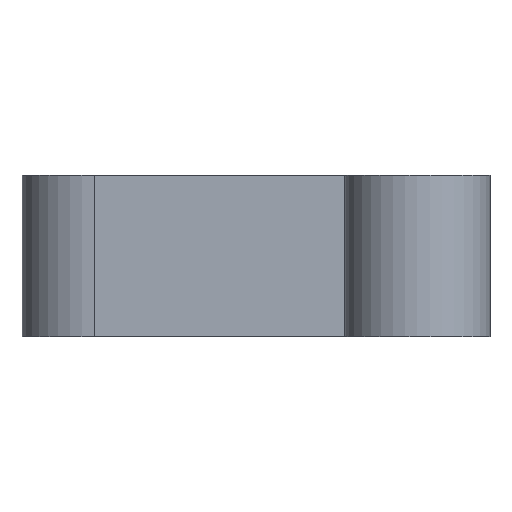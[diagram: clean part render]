
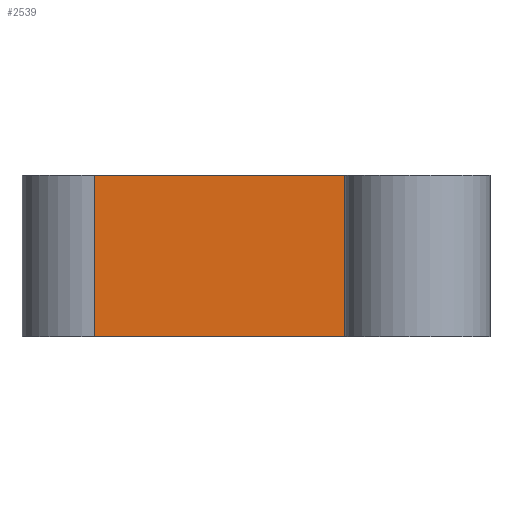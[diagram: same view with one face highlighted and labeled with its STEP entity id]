
A CAD part, left-side view. The second image highlights one B-rep face of the part: STEP entity #2539.
In plain terms, the highlighted planar face has unit normal (-1, 0, 0).
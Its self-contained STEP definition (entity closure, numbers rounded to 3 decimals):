
#67=PLANE('',#2882);
#116=LINE('',#3953,#275);
#126=LINE('',#4025,#285);
#210=LINE('',#4398,#369);
#223=LINE('',#4456,#382);
#275=VECTOR('',#3116,1000.);
#285=VECTOR('',#3180,1000.);
#369=VECTOR('',#3614,1000.);
#382=VECTOR('',#3685,1000.);
#1024=ORIENTED_EDGE('',*,*,#1395,.F.);
#1025=ORIENTED_EDGE('',*,*,#1222,.F.);
#1026=ORIENTED_EDGE('',*,*,#1186,.T.);
#1027=ORIENTED_EDGE('',*,*,#1421,.T.);
#1186=EDGE_CURVE('',#1514,#1513,#116,.T.);
#1222=EDGE_CURVE('',#1514,#1549,#126,.T.);
#1395=EDGE_CURVE('',#1549,#1663,#210,.T.);
#1421=EDGE_CURVE('',#1513,#1663,#223,.T.);
#1513=VERTEX_POINT('',#3952);
#1514=VERTEX_POINT('',#3954);
#1549=VERTEX_POINT('',#4026);
#1663=VERTEX_POINT('',#4399);
#2068=EDGE_LOOP('',(#1024,#1025,#1026,#1027));
#2281=FACE_BOUND('',#2068,.T.);
#2539=ADVANCED_FACE('',(#2281),#67,.T.);
#2882=AXIS2_PLACEMENT_3D('',#4455,#3683,#3684);
#3116=DIRECTION('',(0.,1.,0.));
#3180=DIRECTION('',(0.,0.,-1.));
#3614=DIRECTION('',(0.,1.,0.));
#3683=DIRECTION('',(-1.,0.,0.));
#3684=DIRECTION('',(0.,0.,1.));
#3685=DIRECTION('',(0.,0.,-1.));
#3952=CARTESIAN_POINT('',(12.4,16.,8.));
#3953=CARTESIAN_POINT('',(12.4,3.6,8.));
#3954=CARTESIAN_POINT('',(12.4,3.6,8.));
#4025=CARTESIAN_POINT('',(12.4,3.6,8.));
#4026=CARTESIAN_POINT('',(12.4,3.6,0.));
#4398=CARTESIAN_POINT('',(12.4,3.6,0.));
#4399=CARTESIAN_POINT('',(12.4,16.,0.));
#4455=CARTESIAN_POINT('',(12.4,3.6,8.));
#4456=CARTESIAN_POINT('',(12.4,16.,8.));
